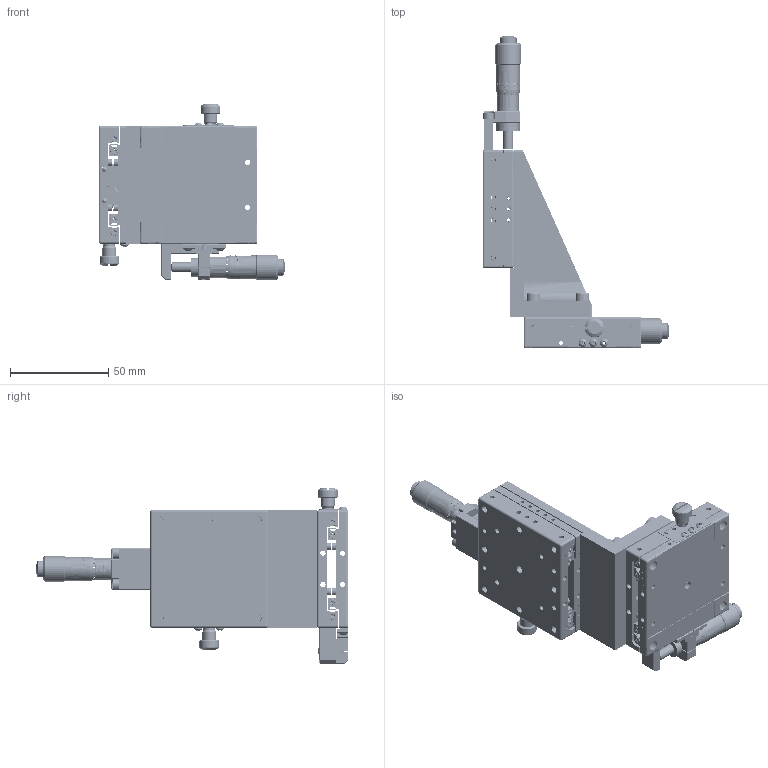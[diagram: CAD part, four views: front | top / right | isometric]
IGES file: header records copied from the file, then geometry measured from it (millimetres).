
Start section: SolidWorks IGES file using analytic representation for surfaces
Bounding box: 95.25 x 159.5 x 89.8 mm (x, y, z)
Surface area: 70780.1 mm2 (no closed solid volume)
Topology: 0 solids, 0 shells, 1447 faces, 29686 edges, 29620 vertices
Faces by surface type: bspline 837, revolution 610
